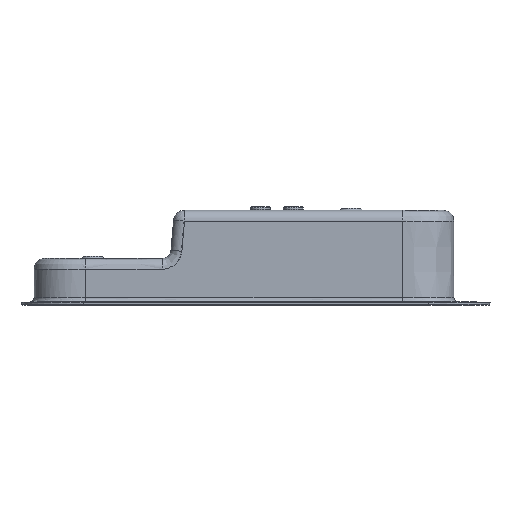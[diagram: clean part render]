
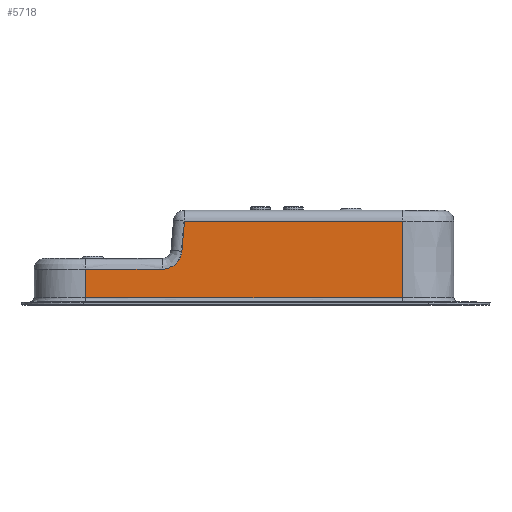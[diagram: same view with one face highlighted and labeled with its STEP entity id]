
A CAD part, top view. The second image highlights one B-rep face of the part: STEP entity #5718.
In plain terms, the highlighted planar face has unit normal (0, 0, 1) as drawn and (0, 1, 0) by its records, which use the part's own axes.
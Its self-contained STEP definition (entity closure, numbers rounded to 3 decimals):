
#422=B_SPLINE_CURVE_WITH_KNOTS('',3,(#13653,#13654,#13655,#13656,#13657,
#13658,#13659,#13660,#13661,#13662,#13663,#13664,#13665,#13666,#13667,#13668,
#13669,#13670,#13671,#13672,#13673,#13674,#13675,#13676,#13677,#13678,#13679,
#13680,#13681,#13682,#13683,#13684,#13685,#13686,#13687,#13688,#13689,#13690,
#13691,#13692,#13693,#13694,#13695,#13696,#13697,#13698,#13699,#13700,#13701,
#13702,#13703,#13704,#13705,#13706,#13707,#13708,#13709,#13710,#13711,#13712,
#13713,#13714,#13715,#13716,#13717,#13718,#13719,#13720,#13721,#13722,#13723,
#13724,#13725,#13726,#13727,#13728,#13729,#13730,#13731),.UNSPECIFIED.,
 .F.,.F.,(4,3,3,3,3,3,3,3,3,3,3,3,3,3,3,3,3,3,3,3,3,3,3,3,3,3,4),(-1.,-0.96,
-0.919,-0.877,-0.835,-0.793,
-0.75,-0.711,-0.672,-0.633,-0.594,
-0.554,-0.515,-0.5,-0.461,-0.421,
-0.382,-0.343,-0.304,-0.265,
-0.25,-0.208,-0.166,-0.125,-0.084,
-0.042,0.),.UNSPECIFIED.);
#702=PLANE('',#6130);
#926=FACE_OUTER_BOUND('',#1290,.T.);
#1290=EDGE_LOOP('',(#4782,#4783,#4784,#4785,#4786,#4787,#4788));
#1792=LINE('',#13651,#2236);
#1793=LINE('',#13733,#2237);
#1794=LINE('',#13735,#2238);
#1795=LINE('',#13737,#2239);
#1796=LINE('',#13739,#2240);
#1797=LINE('',#13740,#2241);
#2236=VECTOR('',#6880,10.);
#2237=VECTOR('',#6881,10.);
#2238=VECTOR('',#6882,10.);
#2239=VECTOR('',#6883,10.);
#2240=VECTOR('',#6884,10.);
#2241=VECTOR('',#6885,10.);
#2771=VERTEX_POINT('',#13649);
#2772=VERTEX_POINT('',#13650);
#2773=VERTEX_POINT('',#13652);
#2774=VERTEX_POINT('',#13732);
#2775=VERTEX_POINT('',#13734);
#2776=VERTEX_POINT('',#13736);
#2777=VERTEX_POINT('',#13738);
#3475=EDGE_CURVE('',#2771,#2772,#1792,.T.);
#3476=EDGE_CURVE('',#2773,#2771,#422,.T.);
#3477=EDGE_CURVE('',#2774,#2773,#1793,.T.);
#3478=EDGE_CURVE('',#2775,#2774,#1794,.T.);
#3479=EDGE_CURVE('',#2776,#2775,#1795,.T.);
#3480=EDGE_CURVE('',#2777,#2776,#1796,.T.);
#3481=EDGE_CURVE('',#2772,#2777,#1797,.T.);
#4782=ORIENTED_EDGE('',*,*,#3475,.F.);
#4783=ORIENTED_EDGE('',*,*,#3476,.F.);
#4784=ORIENTED_EDGE('',*,*,#3477,.F.);
#4785=ORIENTED_EDGE('',*,*,#3478,.F.);
#4786=ORIENTED_EDGE('',*,*,#3479,.F.);
#4787=ORIENTED_EDGE('',*,*,#3480,.F.);
#4788=ORIENTED_EDGE('',*,*,#3481,.F.);
#5718=ADVANCED_FACE('',(#926),#702,.F.);
#6130=AXIS2_PLACEMENT_3D('',#13648,#6878,#6879);
#6878=DIRECTION('center_axis',(0.,-1.,0.));
#6879=DIRECTION('ref_axis',(0.,0.,-1.));
#6880=DIRECTION('',(0.085,0.,-0.996));
#6881=DIRECTION('',(1.,0.,0.));
#6882=DIRECTION('',(0.,0.,-1.));
#6883=DIRECTION('',(-1.,0.,0.));
#6884=DIRECTION('',(0.,0.,1.));
#6885=DIRECTION('',(1.,0.,0.));
#13648=CARTESIAN_POINT('Origin',(-72.444,432.743,-21.));
#13649=CARTESIAN_POINT('',(-27.661,432.743,-23.234));
#13650=CARTESIAN_POINT('',(-26.484,432.743,-37.));
#13651=CARTESIAN_POINT('',(-27.661,432.743,-23.234));
#13652=CARTESIAN_POINT('',(-36.628,432.743,-15.));
#13653=CARTESIAN_POINT('Ctrl Pts',(-36.628,432.743,-15.));
#13654=CARTESIAN_POINT('Ctrl Pts',(-36.448,432.743,-15.));
#13655=CARTESIAN_POINT('Ctrl Pts',(-36.268,432.743,-15.005));
#13656=CARTESIAN_POINT('Ctrl Pts',(-36.088,432.743,-15.016));
#13657=CARTESIAN_POINT('Ctrl Pts',(-35.907,432.743,-15.027));
#13658=CARTESIAN_POINT('Ctrl Pts',(-35.726,432.743,-15.043));
#13659=CARTESIAN_POINT('Ctrl Pts',(-35.546,432.743,-15.065));
#13660=CARTESIAN_POINT('Ctrl Pts',(-35.358,432.743,-15.087));
#13661=CARTESIAN_POINT('Ctrl Pts',(-35.172,432.743,-15.116));
#13662=CARTESIAN_POINT('Ctrl Pts',(-34.986,432.743,-15.15));
#13663=CARTESIAN_POINT('Ctrl Pts',(-34.805,432.743,-15.183));
#13664=CARTESIAN_POINT('Ctrl Pts',(-34.624,432.743,-15.223));
#13665=CARTESIAN_POINT('Ctrl Pts',(-34.445,432.743,-15.267));
#13666=CARTESIAN_POINT('Ctrl Pts',(-34.26,432.743,-15.313));
#13667=CARTESIAN_POINT('Ctrl Pts',(-34.078,432.743,-15.365));
#13668=CARTESIAN_POINT('Ctrl Pts',(-33.897,432.743,-15.422));
#13669=CARTESIAN_POINT('Ctrl Pts',(-33.717,432.743,-15.48));
#13670=CARTESIAN_POINT('Ctrl Pts',(-33.538,432.743,-15.543));
#13671=CARTESIAN_POINT('Ctrl Pts',(-33.363,432.743,-15.612));
#13672=CARTESIAN_POINT('Ctrl Pts',(-33.203,432.743,-15.674));
#13673=CARTESIAN_POINT('Ctrl Pts',(-33.045,432.743,-15.741));
#13674=CARTESIAN_POINT('Ctrl Pts',(-32.888,432.743,-15.812));
#13675=CARTESIAN_POINT('Ctrl Pts',(-32.731,432.743,-15.884));
#13676=CARTESIAN_POINT('Ctrl Pts',(-32.575,432.743,-15.961));
#13677=CARTESIAN_POINT('Ctrl Pts',(-32.421,432.743,-16.042));
#13678=CARTESIAN_POINT('Ctrl Pts',(-32.267,432.743,-16.124));
#13679=CARTESIAN_POINT('Ctrl Pts',(-32.115,432.743,-16.21));
#13680=CARTESIAN_POINT('Ctrl Pts',(-31.965,432.743,-16.301));
#13681=CARTESIAN_POINT('Ctrl Pts',(-31.815,432.743,-16.392));
#13682=CARTESIAN_POINT('Ctrl Pts',(-31.667,432.743,-16.488));
#13683=CARTESIAN_POINT('Ctrl Pts',(-31.522,432.743,-16.588));
#13684=CARTESIAN_POINT('Ctrl Pts',(-31.377,432.743,-16.688));
#13685=CARTESIAN_POINT('Ctrl Pts',(-31.235,432.743,-16.792));
#13686=CARTESIAN_POINT('Ctrl Pts',(-31.096,432.743,-16.901));
#13687=CARTESIAN_POINT('Ctrl Pts',(-30.957,432.743,-17.009));
#13688=CARTESIAN_POINT('Ctrl Pts',(-30.822,432.743,-17.121));
#13689=CARTESIAN_POINT('Ctrl Pts',(-30.69,432.743,-17.237));
#13690=CARTESIAN_POINT('Ctrl Pts',(-30.64,432.743,-17.281));
#13691=CARTESIAN_POINT('Ctrl Pts',(-30.59,432.743,-17.326));
#13692=CARTESIAN_POINT('Ctrl Pts',(-30.541,432.743,-17.371));
#13693=CARTESIAN_POINT('Ctrl Pts',(-30.412,432.743,-17.489));
#13694=CARTESIAN_POINT('Ctrl Pts',(-30.286,432.743,-17.612));
#13695=CARTESIAN_POINT('Ctrl Pts',(-30.164,432.743,-17.738));
#13696=CARTESIAN_POINT('Ctrl Pts',(-30.041,432.743,-17.864));
#13697=CARTESIAN_POINT('Ctrl Pts',(-29.922,432.743,-17.994));
#13698=CARTESIAN_POINT('Ctrl Pts',(-29.807,432.743,-18.128));
#13699=CARTESIAN_POINT('Ctrl Pts',(-29.693,432.743,-18.261));
#13700=CARTESIAN_POINT('Ctrl Pts',(-29.582,432.743,-18.398));
#13701=CARTESIAN_POINT('Ctrl Pts',(-29.475,432.743,-18.538));
#13702=CARTESIAN_POINT('Ctrl Pts',(-29.368,432.743,-18.676));
#13703=CARTESIAN_POINT('Ctrl Pts',(-29.266,432.743,-18.819));
#13704=CARTESIAN_POINT('Ctrl Pts',(-29.168,432.743,-18.963));
#13705=CARTESIAN_POINT('Ctrl Pts',(-29.071,432.743,-19.107));
#13706=CARTESIAN_POINT('Ctrl Pts',(-28.978,432.743,-19.254));
#13707=CARTESIAN_POINT('Ctrl Pts',(-28.889,432.743,-19.403));
#13708=CARTESIAN_POINT('Ctrl Pts',(-28.801,432.743,-19.551));
#13709=CARTESIAN_POINT('Ctrl Pts',(-28.717,432.743,-19.702));
#13710=CARTESIAN_POINT('Ctrl Pts',(-28.638,432.743,-19.854));
#13711=CARTESIAN_POINT('Ctrl Pts',(-28.607,432.743,-19.913));
#13712=CARTESIAN_POINT('Ctrl Pts',(-28.577,432.743,-19.972));
#13713=CARTESIAN_POINT('Ctrl Pts',(-28.548,432.743,-20.032));
#13714=CARTESIAN_POINT('Ctrl Pts',(-28.466,432.743,-20.199));
#13715=CARTESIAN_POINT('Ctrl Pts',(-28.389,432.743,-20.369));
#13716=CARTESIAN_POINT('Ctrl Pts',(-28.317,432.743,-20.542));
#13717=CARTESIAN_POINT('Ctrl Pts',(-28.246,432.743,-20.713));
#13718=CARTESIAN_POINT('Ctrl Pts',(-28.18,432.743,-20.886));
#13719=CARTESIAN_POINT('Ctrl Pts',(-28.119,432.743,-21.062));
#13720=CARTESIAN_POINT('Ctrl Pts',(-28.059,432.743,-21.237));
#13721=CARTESIAN_POINT('Ctrl Pts',(-28.004,432.743,-21.414));
#13722=CARTESIAN_POINT('Ctrl Pts',(-27.955,432.743,-21.593));
#13723=CARTESIAN_POINT('Ctrl Pts',(-27.906,432.743,-21.768));
#13724=CARTESIAN_POINT('Ctrl Pts',(-27.863,432.743,-21.946));
#13725=CARTESIAN_POINT('Ctrl Pts',(-27.825,432.743,-22.124));
#13726=CARTESIAN_POINT('Ctrl Pts',(-27.786,432.743,-22.307));
#13727=CARTESIAN_POINT('Ctrl Pts',(-27.753,432.743,-22.492));
#13728=CARTESIAN_POINT('Ctrl Pts',(-27.726,432.743,-22.677));
#13729=CARTESIAN_POINT('Ctrl Pts',(-27.698,432.743,-22.862));
#13730=CARTESIAN_POINT('Ctrl Pts',(-27.677,432.743,-23.047));
#13731=CARTESIAN_POINT('Ctrl Pts',(-27.661,432.743,-23.234));
#13732=CARTESIAN_POINT('',(-71.719,432.743,-15.));
#13733=CARTESIAN_POINT('',(-71.719,432.743,-15.));
#13734=CARTESIAN_POINT('',(-71.719,432.743,-2.));
#13735=CARTESIAN_POINT('',(-71.719,432.743,-2.));
#13736=CARTESIAN_POINT('',(73.204,432.743,-2.));
#13737=CARTESIAN_POINT('',(73.204,432.743,-2.));
#13738=CARTESIAN_POINT('',(73.204,432.743,-37.));
#13739=CARTESIAN_POINT('',(73.204,432.743,-37.));
#13740=CARTESIAN_POINT('',(-26.484,432.743,-37.));
